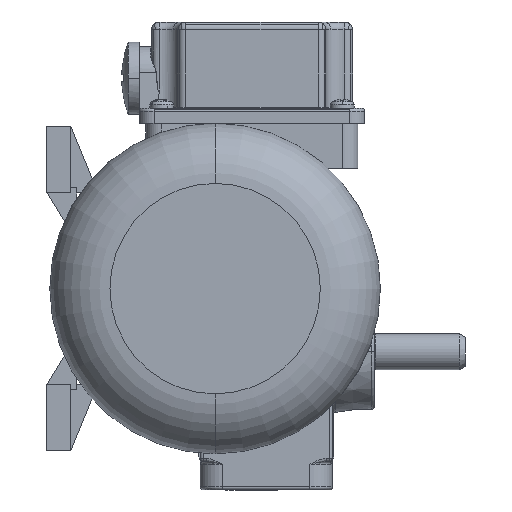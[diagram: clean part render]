
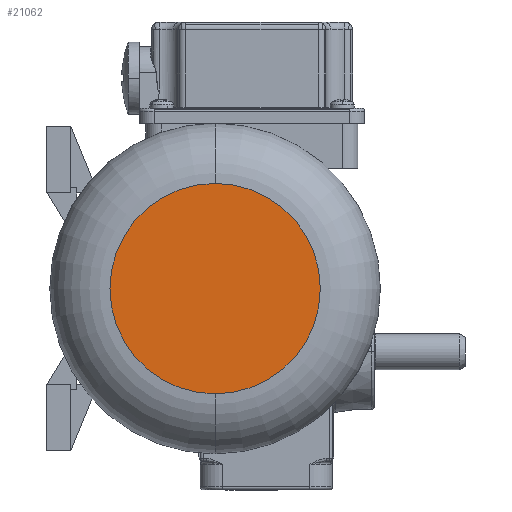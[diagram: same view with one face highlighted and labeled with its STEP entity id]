
A CAD part, left-side view. The second image highlights one B-rep face of the part: STEP entity #21062.
In plain terms, the highlighted planar face has unit normal (-1, 0, 0).
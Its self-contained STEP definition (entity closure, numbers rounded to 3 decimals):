
#4038 = DIRECTION ( 'NONE',  ( 1., 0., 0. ) ) ;
#5454 = EDGE_CURVE ( 'NONE', #25816, #10201, #14516, .T. ) ;
#6222 = CARTESIAN_POINT ( 'NONE',  ( 0., 0., 0. ) ) ;
#7948 = AXIS2_PLACEMENT_3D ( 'NONE', #6222, #4038, #29437 ) ;
#8974 = ORIENTED_EDGE ( 'NONE', *, *, #10557, .T. ) ;
#9227 = DIRECTION ( 'NONE',  ( 0., 0., -1. ) ) ;
#9863 = EDGE_LOOP ( 'NONE', ( #8974, #17913 ) ) ;
#10075 = CARTESIAN_POINT ( 'NONE',  ( 0., 0., 0. ) ) ;
#10201 = VERTEX_POINT ( 'NONE', #13885 ) ;
#10557 = EDGE_CURVE ( 'NONE', #10201, #25816, #26034, .T. ) ;
#11537 = AXIS2_PLACEMENT_3D ( 'NONE', #10075, #28395, #19455 ) ;
#13885 = CARTESIAN_POINT ( 'NONE',  ( 0., 0., -35. ) ) ;
#14516 = CIRCLE ( 'NONE', #11537, 35. ) ;
#17913 = ORIENTED_EDGE ( 'NONE', *, *, #5454, .T. ) ;
#19131 = AXIS2_PLACEMENT_3D ( 'NONE', #28577, #25378, #9227 ) ;
#19455 = DIRECTION ( 'NONE',  ( 0., 0., -1. ) ) ;
#19893 = FACE_OUTER_BOUND ( 'NONE', #9863, .T. ) ;
#21062 = ADVANCED_FACE ( 'NONE', ( #19893 ), #26972, .F. ) ;
#25378 = DIRECTION ( 'NONE',  ( -1., 0., 0. ) ) ;
#25816 = VERTEX_POINT ( 'NONE', #29254 ) ;
#26034 = CIRCLE ( 'NONE', #19131, 35. ) ;
#26972 = PLANE ( 'NONE',  #7948 ) ;
#28395 = DIRECTION ( 'NONE',  ( -1., 0., 0. ) ) ;
#28577 = CARTESIAN_POINT ( 'NONE',  ( 0., 0., 0. ) ) ;
#29254 = CARTESIAN_POINT ( 'NONE',  ( 0., 0., 35. ) ) ;
#29437 = DIRECTION ( 'NONE',  ( 0., 0., -1. ) ) ;
